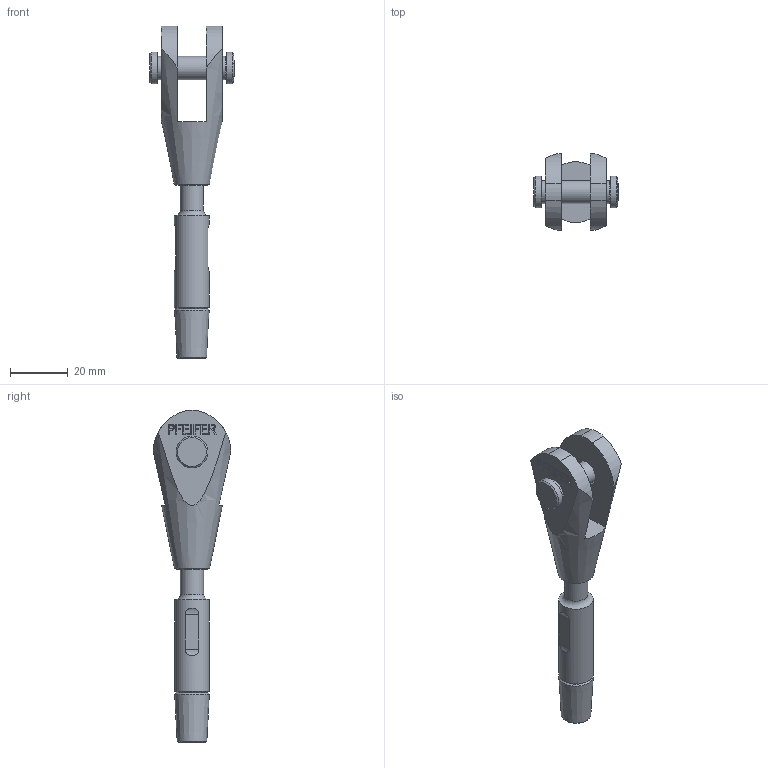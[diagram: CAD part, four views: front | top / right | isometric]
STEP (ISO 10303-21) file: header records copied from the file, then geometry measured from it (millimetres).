
FILE_DESCRIPTION(/* description */ (''),/* implementation_level */ '2;1');
FILE_NAME(/* name */ 'G:\Engineering\700 CAD\Internet-PX-1-step-igs-dxf\520-GAK-ADA-Arbeitsdateien\520-008-GAK-ADA.stp',/* time_stamp */ '2020-07-03T13:01:37+02:00',/* author */ ('schwarz'),/* organization */ (''),/* preprocessor_version */ 'ST-DEVELOPER v16.1',/* originating_system */ 'Autodesk Inventor 2016',/* authorisation */ '');
FILE_SCHEMA (('AUTOMOTIVE_DESIGN { 1 0 10303 214 3 1 1 }'));
Length unit declared in the file: centimetre
Products named in the file (1): 520-008-GAK-ADA-Kunde
Bounding box: 29.11 x 26.67 x 114.5 mm (x, y, z)
Volume: 17774.5 mm3; surface area: 8740.4 mm2
Topology: 2 solids, 3 shells, 197 faces, 508 edges, 337 vertices
Faces by surface type: plane 139, cylinder 22, bspline 21, cone 14, torus 1
Full cylindrical faces by diameter (mm): 2.459 x1, 3 x1, 3.5 x1, 5.54 x1, 8 x2, 8.4 x1, 9 x2, 11 x2, 12 x1
Entity records: 6133 total; most frequent: CARTESIAN_POINT 1403, ORIENTED_EDGE 942, DIRECTION 808, EDGE_CURVE 471, LINE 356, VECTOR 356, VERTEX_POINT 327, EDGE_LOOP 248
